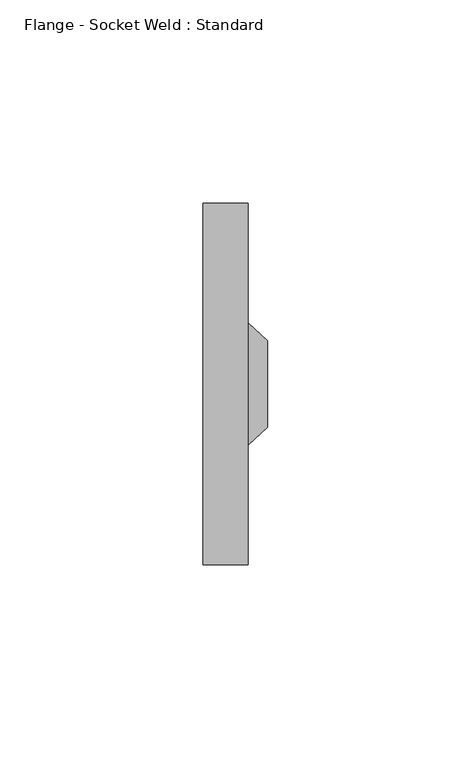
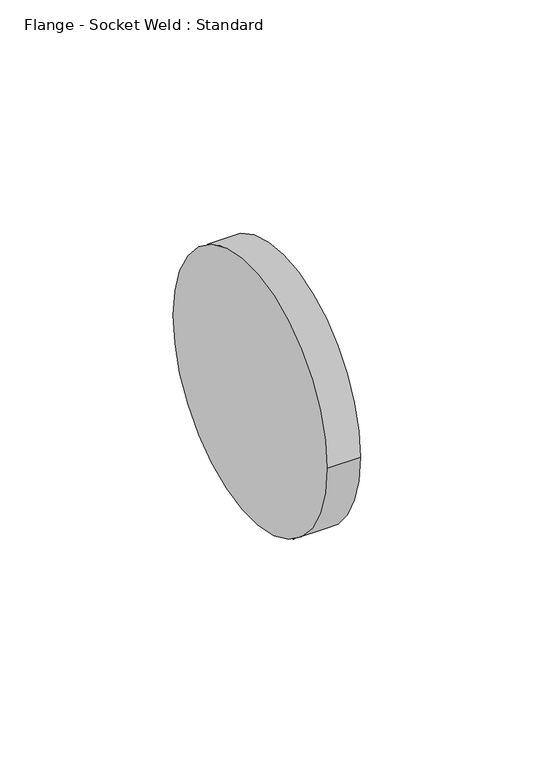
"""IFC4 building model written with IfcOpenShell, lengths in millimetres: valve geometry, Flange - Socket Weld : Standard."""

import ifcopenshell
import ifcopenshell.guid

model = None  # the IFC model being written
_history = None  # IfcOwnerHistory: only IFC2X3 demands one
_inside = {}  # id of a spatial element -> (the spatial element, [elements in it])
_under = {}  # id of a project, library or spatial element -> (it, [spatial elements below it])
_declared = {}  # id of a project -> (the project, [libraries it declares])
_typed = {}  # id of a type object -> (the type object, [elements of that type])
_made_of = {}  # id of a material, layer set ... -> (it, [elements and type objects made of it])


def new_model(schema):
    """Start an empty IFC model of exactly this schema.

    Asked for "IFC4X3", IfcOpenShell would pick the latest addendum, in which some entities
    have other attributes; the version numbers below select the first issue.
    IFC2X3 requires an IfcOwnerHistory on every rooted entity: one is made here for all.
    """
    global model, _history
    if schema == "IFC4X3":
        model = ifcopenshell.file(schema_version=(4, 3, 0, 0))
    else:
        model = ifcopenshell.file(schema=schema)
    _inside.clear()
    _under.clear()
    _declared.clear()
    _typed.clear()
    _made_of.clear()
    _history = None
    if model.schema == "IFC2X3":
        org = make("IfcOrganization", Name="unknown")
        user = make(
            "IfcPersonAndOrganization",
            ThePerson=make("IfcPerson", FamilyName="unknown"),
            TheOrganization=org,
        )
        app = make(
            "IfcApplication",
            ApplicationDeveloper=org,
            Version="unknown",
            ApplicationFullName="unknown",
            ApplicationIdentifier="unknown",
        )
        _history = make(
            "IfcOwnerHistory",
            OwningUser=user,
            OwningApplication=app,
            ChangeAction="ADDED",
            CreationDate=0,
        )
    return model


def make(cls, **values):
    """One entity of the class cls with the attributes given. An attribute that is None is left unset."""
    return model.create_entity(
        cls, **{name: value for name, value in values.items() if value is not None}
    )


def rooted(cls, **values):
    """An entity with a GlobalId (a new one), such as an element, a storey or a relation."""
    return make(cls, GlobalId=ifcopenshell.guid.new(), OwnerHistory=_history, **values)


def si_unit(unit_type, name, prefix=None):
    """IfcSIUnit, for example si_unit("LENGTHUNIT", "METRE", prefix="MILLI")."""
    return make("IfcSIUnit", UnitType=unit_type, Prefix=prefix, Name=name)


def assignment(units):
    """IfcUnitAssignment: the units of a project."""
    return None if units is None else make("IfcUnitAssignment", Units=units)


def point(xyz):
    """IfcCartesianPoint."""
    return None if xyz is None else make("IfcCartesianPoint", Coordinates=xyz)


def direction(xyz):
    """IfcDirection."""
    return None if xyz is None else make("IfcDirection", DirectionRatios=xyz)


def frame(location, z_axis=None, x_axis=None):
    """IfcAxis2Placement3D, a coordinate frame: its origin and axes. An axis left out is left unset."""
    return make(
        "IfcAxis2Placement3D",
        Location=point(location),
        Axis=direction(z_axis),
        RefDirection=direction(x_axis),
    )


def origin():
    """The frame at (0, 0, 0) with its axes left unset."""
    return frame((0.0, 0.0, 0.0))


def place(relative_to, where):
    """IfcLocalPlacement: puts the frame where relative to a parent placement (None: the world)."""
    return make(
        "IfcLocalPlacement", PlacementRelTo=relative_to, RelativePlacement=where
    )


def context(
    kind, dimensions, precision=None, world=None, true_north=None, identifier=None
):
    """IfcGeometricRepresentationContext, for example the 3D "Model" context."""
    return make(
        "IfcGeometricRepresentationContext",
        ContextIdentifier=identifier,
        ContextType=kind,
        CoordinateSpaceDimension=dimensions,
        Precision=precision,
        WorldCoordinateSystem=world,
        TrueNorth=true_north,
    )


def project(units=None, contexts=None):
    """IfcProject with its units and contexts."""
    return rooted(
        "IfcProject",
        Name="project",
        RepresentationContexts=contexts,
        UnitsInContext=assignment(units),
    )


def spatial(cls, under=None, at=None, **own):
    """A site, building, storey or space (cls), placed at a placement, below another one or the project."""
    s = rooted(cls, ObjectPlacement=at, **own)
    if under is not None:
        _under.setdefault(under.id(), (under, []))[1].append(s)
    return s


def polyline(points):
    """IfcPolyline through the points."""
    return make("IfcPolyline", Points=[point(p) for p in points])


def circle_curve(where, radius):
    """IfcCircle in the frame where."""
    return make("IfcCircle", Position=where, Radius=radius)


def shape(context_of_items, identifier, shape_type, items):
    """IfcShapeRepresentation: the items that make up one representation, for example the "Body"."""
    return make(
        "IfcShapeRepresentation",
        ContextOfItems=context_of_items,
        RepresentationIdentifier=identifier,
        RepresentationType=shape_type,
        Items=items,
    )


def source(mapping_origin, context_of_items, identifier, shape_type, items):
    """IfcRepresentationMap: a shape defined once, which mapped items show again and again."""
    return make(
        "IfcRepresentationMap",
        MappingOrigin=mapping_origin,
        MappedRepresentation=shape(context_of_items, identifier, shape_type, items),
    )


def transform(
    local_origin,
    x_axis=None,
    y_axis=None,
    z_axis=None,
    scale=None,
    scale2=None,
    scale3=None,
    uniform=True,
):
    """IfcCartesianTransformationOperator3D, or its non-uniform kind. x_axis, y_axis, z_axis: its Axis1, 2, 3."""
    if uniform:
        return make(
            "IfcCartesianTransformationOperator3D",
            Axis1=direction(x_axis),
            Axis2=direction(y_axis),
            LocalOrigin=point(local_origin),
            Scale=scale,
            Axis3=direction(z_axis),
        )
    return make(
        "IfcCartesianTransformationOperator3DnonUniform",
        Axis1=direction(x_axis),
        Axis2=direction(y_axis),
        LocalOrigin=point(local_origin),
        Scale=scale,
        Axis3=direction(z_axis),
        Scale2=scale2,
        Scale3=scale3,
    )


def mapped(mapping_source, mapping_target):
    """IfcMappedItem: shows the shape of a source again, moved by a transform."""
    return make(
        "IfcMappedItem", MappingSource=mapping_source, MappingTarget=mapping_target
    )


def made_of(thing, what):
    """Note that an element or type object is made of a material, layer set ...; save() writes the relation."""
    if what is not None:
        _made_of.setdefault(what.id(), (what, []))[1].append(thing)
    return thing


def element(
    cls,
    number,
    at=None,
    inside=None,
    cuts=None,
    type_object=None,
    material=None,
    context=None,
    identifier="Body",
    shape_type=None,
    held_by="IfcProductDefinitionShape",
    body=None,
    shapes=None,
    **own,
):
    """One element of the class cls, such as IfcWall. Its Tag is "e" and its number.

    at: its placement. inside: the storey or other place that contains it. cuts: it is an
    opening in that element (IfcRelVoidsElement). A single representation is given by context,
    identifier, shape_type and body (its items); several are given by shapes. held_by: the class
    of the entity that holds the representations. save() writes the other relations.
    """
    e = rooted(cls, Tag="e%d" % number, ObjectPlacement=at, **own)
    if body is not None:
        shapes = [shape(context, identifier, shape_type, body)]
    if shapes is not None:
        e.Representation = make(held_by, Representations=shapes)
    if inside is not None:
        _inside.setdefault(inside.id(), (inside, []))[1].append(e)
    if cuts is not None:
        rooted(
            "IfcRelVoidsElement", RelatingBuildingElement=cuts, RelatedOpeningElement=e
        )
    if type_object is not None:
        _typed.setdefault(type_object.id(), (type_object, []))[1].append(e)
    return made_of(e, material)


def aggregate(whole, parts):
    """IfcRelAggregates: a whole, such as a stair, and the parts it consists of."""
    return rooted("IfcRelAggregates", RelatingObject=whole, RelatedObjects=parts)


def save(model, path):
    """Write the relations noted so far, then the file.

    IfcRelAggregates (storeys below a building ...), IfcRelContainedInSpatialStructure (elements
    in a storey), IfcRelDefinesByType, IfcRelAssociatesMaterial and IfcRelDeclares: one each for
    every whole, place, type object, material and project.
    """
    for whole, parts in _under.values():
        aggregate(whole, parts)
    for where, things in _inside.values():
        rooted(
            "IfcRelContainedInSpatialStructure",
            RelatedElements=things,
            RelatingStructure=where,
        )
    for kind, things in _typed.values():
        rooted("IfcRelDefinesByType", RelatedObjects=things, RelatingType=kind)
    for what, things in _made_of.values():
        rooted("IfcRelAssociatesMaterial", RelatedObjects=things, RelatingMaterial=what)
    for by, libraries in _declared.values():
        rooted("IfcRelDeclares", RelatingContext=by, RelatedDefinitions=libraries)
    model.write(path)


def plane_surface(at):
    """IfcPlane: the flat surface through the origin of the frame at, square to its z axis."""
    return make("IfcPlane", Position=at)


def cylinder_surface(at, radius):
    """IfcCylindricalSurface: all points at the distance radius from the z axis of the frame at."""
    return make("IfcCylindricalSurface", Position=at, Radius=radius)


def revolved_surface(curve, axis_point, axis_direction):
    """IfcSurfaceOfRevolution: the curve turned about the line through axis_point along axis_direction."""
    return make(
        "IfcSurfaceOfRevolution",
        SweptCurve=make("IfcArbitraryOpenProfileDef", ProfileType="CURVE", Curve=curve),
        AxisPosition=make("IfcAxis1Placement", Location=point(axis_point), Axis=direction(axis_direction)),
    )


def advanced_brep(points, edges, surfaces, faces):
    """IfcAdvancedBrep: a solid bounded by faces that lie on surfaces and meet in shared edges.

    An edge is (start, end): straight between two places in points (the first is 0);
    or (start, end, curve); or (start, end, curve, False) where it runs against its curve.
    A face is (place in surfaces, loops), or (place, loops, False) where it looks against
    its surface's normal. A loop lists edges by number (the first is 1), with a minus sign
    where the edge is run from its end to its start. The first loop is the outer one.
    """
    corners = [point(p) for p in points]
    vertices = [make("IfcVertexPoint", VertexGeometry=c) for c in corners]
    made = []
    for start, end, *more in edges:
        made.append(
            make(
                "IfcEdgeCurve",
                EdgeStart=vertices[start],
                EdgeEnd=vertices[end],
                EdgeGeometry=more[0] if more else make("IfcPolyline", Points=[corners[start], corners[end]]),
                SameSense=more[1] if len(more) > 1 else True,
            )
        )
    hull = []
    for where, loops, *sense in faces:
        bounds = []
        for j, loop in enumerate(loops):
            ring = [make("IfcOrientedEdge", EdgeElement=made[abs(k) - 1], Orientation=k > 0) for k in loop]
            bounds.append(
                make(
                    "IfcFaceOuterBound" if j == 0 else "IfcFaceBound",
                    Bound=make("IfcEdgeLoop", EdgeList=ring),
                    Orientation=True,
                )
            )
        hull.append(make("IfcAdvancedFace", Bounds=bounds, FaceSurface=surfaces[where], SameSense=sense[0] if sense else True))
    return make("IfcAdvancedBrep", Outer=make("IfcClosedShell", CfsFaces=hull))


def flange_socket_weld_standard_f789208a(model_context):
    return source(origin(), model_context, "Body", "AdvancedBrep", [
        advanced_brep(
        [(1.5875, 44.45, 0.0), (1.5875, -44.45, 0.0), (12.7, 44.45, 0.0), (12.7, -44.45, 0.0), (12.7, -15.08125, 0.0), (12.7, 15.08125, 0.0), (17.4625, 10.668, 0.0), (17.4625, -10.668, 0.0)],
        [
            (0, 1, circle_curve(frame((1.5875, 0.0, 0.0), z_axis=(-1.0, 0.0, 0.0), x_axis=(0.0, -1.0, 0.0)), 44.45)),
            (1, 0, circle_curve(frame((1.5875, 0.0, 0.0), z_axis=(-1.0, 0.0, 0.0), x_axis=(0.0, -1.0, 0.0)), 44.45)),
            (2, 3, circle_curve(frame((12.7, 0.0, 0.0), z_axis=(1.0, 0.0, 0.0), x_axis=(0.0, -1.0, 0.0)), 44.45)),
            (3, 2, circle_curve(frame((12.7, 0.0, 0.0), z_axis=(1.0, 0.0, 0.0), x_axis=(0.0, -1.0, 0.0)), 44.45)),
            (4, 5, circle_curve(frame((12.7, 0.0, 0.0), z_axis=(-1.0, 0.0, 0.0), x_axis=(0.0, -1.0, 0.0)), 15.08125)),
            (5, 4, circle_curve(frame((12.7, 0.0, 0.0), z_axis=(-1.0, 0.0, 0.0), x_axis=(0.0, 1.0, 0.0)), 15.08125)),
            (1, 3),
            (2, 0),
            (6, 7, circle_curve(frame((17.4625, 0.0, 0.0), z_axis=(1.0, 0.0, 0.0), x_axis=(0.0, -1.0, 0.0)), 10.668)),
            (7, 6, circle_curve(frame((17.4625, 0.0, 0.0), z_axis=(1.0, 0.0, 0.0), x_axis=(0.0, 1.0, 0.0)), 10.668)),
            (7, 4),
            (5, 6),
        ],
        [
            plane_surface(frame((1.5875, 0.0, 0.0), z_axis=(-1.0, 0.0, 0.0), x_axis=(0.0, 0.0, 1.0))),
            plane_surface(frame((12.7, 0.0, 0.0), z_axis=(1.0, 0.0, 0.0), x_axis=(0.0, 0.0, 1.0))),
            cylinder_surface(frame((1.5875, 0.0, 0.0), z_axis=(-1.0, 0.0, 0.0), x_axis=(0.0, -1.0, 0.0)), 44.45),
            plane_surface(frame((17.4625, 0.0, 0.0), z_axis=(1.0, 0.0, 0.0), x_axis=(0.0, 0.0, -1.0))),
            revolved_surface(polyline([(17.4625, -10.667999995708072, 0.0), (12.7, -15.08125, 0.0)]), (28.9747302, 0.0, 0.0), (-1.0, 0.0, 0.0)),
            revolved_surface(polyline([(17.4625, 10.667999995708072, 0.0), (12.7, 15.08125, 0.0)]), (28.9747302, 0.0, 0.0), (-1.0, 0.0, 0.0)),
        ],
        [
            (0, [[1, 2]]),
            (1, [[3, 4], [5, 6]]),
            (2, [[7, -3, 8, -2]]),
            (2, [[-8, -4, -7, -1]]),
            (3, [[9, 10]]),
            (4, [[11, -6, 12, -10]]),
            (5, [[-12, -5, -11, -9]]),
        ],
    ),
    ])


if __name__ == "__main__":
    model = new_model("IFC4")
    model_context = context("Model", 3, world=origin())
    ifc_project = project(units=[si_unit("LENGTHUNIT", "METRE", prefix="MILLI")], contexts=[model_context])
    site = spatial("IfcSite", under=ifc_project)
    building = spatial("IfcBuilding", under=site)
    placement = place(None, origin())
    flange_socket_weld_standard_shape = flange_socket_weld_standard_f789208a(model_context)
    element("IfcValve", 1, ObjectType="Flange - Socket Weld : Standard", at=placement, inside=building, context=model_context, shape_type="MappedRepresentation", body=[
        mapped(flange_socket_weld_standard_shape, transform((0.0, 0.0, 0.0), x_axis=(1.0, 0.0, 0.0), y_axis=(0.0, 1.0, 0.0), z_axis=(0.0, 0.0, 1.0))),
    ])
    save(model, "model.ifc")
